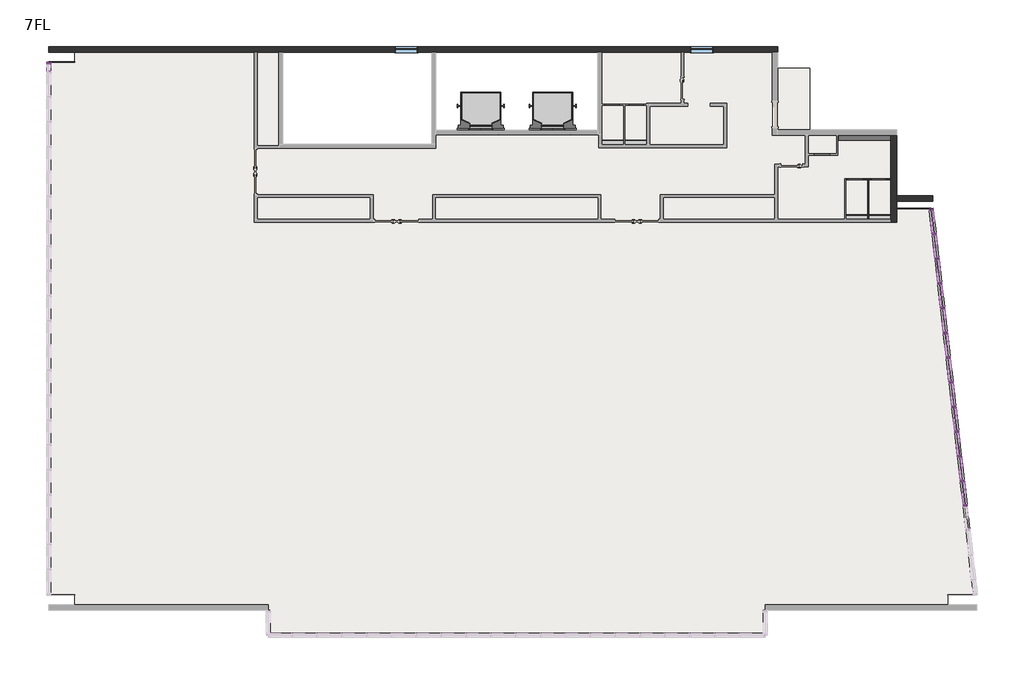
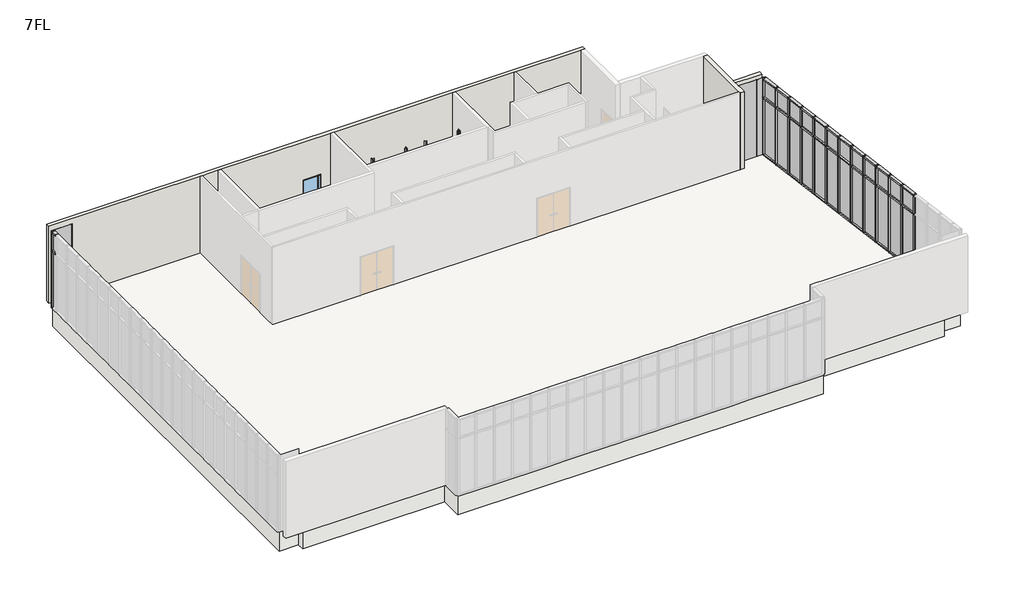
# One storey, part 4 of 4: 67 members, 28 plates, 8 proxies, 5 walls, 4 flow terminals, 2 slabs, 2 windows.
"""IFC4 building model written with IfcOpenShell, lengths in millimetres."""

from ifc_helpers import new_model, si_unit, frame, origin, place, context, project, spatial, polyline, outline, extrude, faceted_brep, transform, mapped, element, save
from components import specialty_equipment_d755c605, d150_h1500_9903e80e, w550_h2000_5054dc5e, w600_h2000_381ad4ff, flow_terminal_205c4ddb, member_70x150_cdd4dcf9, member_70x150_66cf63de, member_70x150_26475b18, member_70x150_ad4265bc, member_70x150_1b280ac3, member_70x150_76429c73, member_70x150_a15bb337, member_70x150_da24903b, plate_d1366ea1, plate_ab860a3c, plate_97be90fd, plate_28587fd3, plate_396bcf3c, w800_h1100_2b598eca

model = new_model("IFC4")

# Units and contexts
model_context = context("Model", 3, world=origin())
ifc_project = project(units=[si_unit("LENGTHUNIT", "METRE", prefix="MILLI")], contexts=[model_context])

# Site, building, storey
site = spatial("IfcSite", under=ifc_project)
building = spatial("IfcBuilding", under=site)
storey = spatial("IfcBuildingStorey", under=building, Name="7FL", Elevation=24600.0)

# Proxies
placement = place(None, origin())
specialty_equipment_shape = specialty_equipment_d755c605(model_context)
element("IfcBuildingElementProxy", 1, Name="エレベーター : 9人乗", ObjectType="エレベーター : 9人乗", at=placement, inside=storey, context=model_context, shape_type="MappedRepresentation", body=[
    mapped(specialty_equipment_shape, transform((-11220.9784025, 13649.6868987, 24600.0), x_axis=(1.0, 0.0, 0.0), y_axis=(0.0, 1.0, 0.0), z_axis=(0.0, 0.0, 1.0))),
])
element("IfcBuildingElementProxy", 2, Name="エレベーター : 9人乗", ObjectType="エレベーター : 9人乗", at=placement, inside=storey, context=model_context, shape_type="MappedRepresentation", body=[
    mapped(specialty_equipment_shape, transform((-13820.9784025, 13649.6868987, 24600.0), x_axis=(1.0, 0.0, 0.0), y_axis=(0.0, 1.0, 0.0), z_axis=(0.0, 0.0, 1.0))),
])
d150_h1500_shape = d150_h1500_9903e80e(model_context)
element("IfcBuildingElementProxy", 3, Name="r ライニング : D150 H1500", ObjectType="r ライニング : D150 H1500", at=placement, inside=storey, context=model_context, shape_type="MappedRepresentation", body=[
    mapped(d150_h1500_shape, transform((-736.1600971, 13521.6596024, 24600.0), x_axis=(1.0, 0.0, 0.0), y_axis=(0.0, 1.0, 0.0), z_axis=(0.0, 0.0, 1.0))),
])
w550_h2000_shape = w550_h2000_5054dc5e(model_context)
element("IfcBuildingElementProxy", 4, Name="r トイレブース扉 : W550 H2000", ObjectType="r トイレブース扉 : W550 H2000", at=placement, inside=storey, context=model_context, shape_type="MappedRepresentation", body=[
    mapped(w550_h2000_shape, transform((-8823.4784025, 14649.6868987, 24600.0), x_axis=(-1.0, 0.0, 0.0), y_axis=(0.0, -1.0, 0.0), z_axis=(0.0, 0.0, 1.0))),
])
element("IfcBuildingElementProxy", 5, Name="r トイレブース扉 : W550 H2000", ObjectType="r トイレブース扉 : W550 H2000", at=placement, inside=storey, context=model_context, shape_type="MappedRepresentation", body=[
    mapped(w550_h2000_shape, transform((-7940.9784025, 14649.6868987, 24600.0), x_axis=(-1.0, 0.0, 0.0), y_axis=(0.0, -1.0, 0.0), z_axis=(0.0, 0.0, 1.0))),
])
element("IfcBuildingElementProxy", 6, Name="r トイレブース扉 : W550 H2000", ObjectType="r トイレブース扉 : W550 H2000", at=placement, inside=storey, context=model_context, shape_type="MappedRepresentation", body=[
    mapped(w550_h2000_shape, transform((-5.9784025, 11949.6868987, 24600.0), x_axis=(-1.0, 0.0, 0.0), y_axis=(0.0, -1.0, 0.0), z_axis=(0.0, 0.0, 1.0))),
])
element("IfcBuildingElementProxy", 7, Name="r トイレブース扉 : W550 H2000", ObjectType="r トイレブース扉 : W550 H2000", at=placement, inside=storey, context=model_context, shape_type="MappedRepresentation", body=[
    mapped(w550_h2000_shape, transform((834.0215975, 11949.6868987, 24600.0), x_axis=(-1.0, 0.0, 0.0), y_axis=(0.0, -1.0, 0.0), z_axis=(0.0, 0.0, 1.0))),
])
w600_h2000_shape = w600_h2000_381ad4ff(model_context)
element("IfcBuildingElementProxy", 8, Name="r トイレブース扉 : W600 H2000", ObjectType="r トイレブース扉 : W600 H2000", at=placement, inside=storey, context=model_context, shape_type="MappedRepresentation", body=[
    mapped(w600_h2000_shape, transform((-1220.9784025, 12849.6868987, 24600.0), x_axis=(-1.0, 0.0, 0.0), y_axis=(0.0, -1.0, 0.0), z_axis=(0.0, 0.0, 1.0))),
])

# Flow terminals
flow_terminal_shape = flow_terminal_205c4ddb(model_context)
element("IfcFlowTerminal", 9, ObjectType="洋式便器 - ライニング付 - 2D : タイプ 1", at=placement, inside=storey, context=model_context, shape_type="MappedRepresentation", body=[
    mapped(flow_terminal_shape, transform((-9045.9784025, 13149.6868987, 24600.0), x_axis=(1.0, 0.0, 0.0), y_axis=(0.0, 1.0, 0.0), z_axis=(0.0, 0.0, 1.0))),
])
element("IfcFlowTerminal", 10, ObjectType="洋式便器 - ライニング付 - 2D : タイプ 1", at=placement, inside=storey, context=model_context, shape_type="MappedRepresentation", body=[
    mapped(flow_terminal_shape, transform((-8205.9784025, 13149.6868987, 24600.0), x_axis=(1.0, 0.0, 0.0), y_axis=(0.0, 1.0, 0.0), z_axis=(0.0, 0.0, 1.0))),
])
element("IfcFlowTerminal", 11, ObjectType="洋式便器 - ライニング付 - 2D : タイプ 1", at=placement, inside=storey, context=model_context, shape_type="MappedRepresentation", body=[
    mapped(flow_terminal_shape, transform((-210.9784025, 10449.6868987, 24600.0), x_axis=(1.0, 0.0, 0.0), y_axis=(0.0, 1.0, 0.0), z_axis=(0.0, 0.0, 1.0))),
])
element("IfcFlowTerminal", 12, ObjectType="洋式便器 - ライニング付 - 2D : タイプ 1", at=placement, inside=storey, context=model_context, shape_type="MappedRepresentation", body=[
    mapped(flow_terminal_shape, transform((629.0215975, 10449.6868987, 24600.0), x_axis=(1.0, 0.0, 0.0), y_axis=(0.0, 1.0, 0.0), z_axis=(0.0, 0.0, 1.0))),
])

# Members
member_70x150_shape = member_70x150_cdd4dcf9(model_context)
element("IfcMember", 13, ObjectType="長方形のマリオン : 70x150", at=placement, inside=storey, context=model_context, shape_type="MappedRepresentation", body=[
    mapped(member_70x150_shape, transform((3840.8083387, 134.7603905, 24600.0), x_axis=(0.11354659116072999, -0.9935326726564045, 0.0), y_axis=(-0.9935326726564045, -0.11354659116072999, 0.0), z_axis=(0.0, 0.0, -1.0))),
])
element("IfcMember", 14, ObjectType="長方形のマリオン : 70x150", at=placement, inside=storey, context=model_context, shape_type="MappedRepresentation", body=[
    mapped(member_70x150_shape, transform((3738.6164066, 1028.9397959, 24600.0), x_axis=(0.11354659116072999, -0.9935326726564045, 0.0), y_axis=(-0.9935326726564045, -0.11354659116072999, 0.0), z_axis=(0.0, 0.0, -1.0))),
])
element("IfcMember", 15, ObjectType="長方形のマリオン : 70x150", at=placement, inside=storey, context=model_context, shape_type="MappedRepresentation", body=[
    mapped(member_70x150_shape, transform((3636.4244746, 1923.1192013, 24600.0), x_axis=(0.11354659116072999, -0.9935326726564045, 0.0), y_axis=(-0.9935326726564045, -0.11354659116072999, 0.0), z_axis=(0.0, 0.0, -1.0))),
])
element("IfcMember", 16, ObjectType="長方形のマリオン : 70x150", at=placement, inside=storey, context=model_context, shape_type="MappedRepresentation", body=[
    mapped(member_70x150_shape, transform((3534.2325425, 2817.2986066, 24600.0), x_axis=(0.11354659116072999, -0.9935326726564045, 0.0), y_axis=(-0.9935326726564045, -0.11354659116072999, 0.0), z_axis=(0.0, 0.0, -1.0))),
])
element("IfcMember", 17, ObjectType="長方形のマリオン : 70x150", at=placement, inside=storey, context=model_context, shape_type="MappedRepresentation", body=[
    mapped(member_70x150_shape, transform((3432.0406105, 3711.478012, 24600.0), x_axis=(0.11354659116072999, -0.9935326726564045, 0.0), y_axis=(-0.9935326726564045, -0.11354659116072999, 0.0), z_axis=(0.0, 0.0, -1.0))),
])
element("IfcMember", 18, ObjectType="長方形のマリオン : 70x150", at=placement, inside=storey, context=model_context, shape_type="MappedRepresentation", body=[
    mapped(member_70x150_shape, transform((3329.8486784, 4605.6574174, 24600.0), x_axis=(0.11354659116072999, -0.9935326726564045, 0.0), y_axis=(-0.9935326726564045, -0.11354659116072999, 0.0), z_axis=(0.0, 0.0, -1.0))),
])
element("IfcMember", 19, ObjectType="長方形のマリオン : 70x150", at=placement, inside=storey, context=model_context, shape_type="MappedRepresentation", body=[
    mapped(member_70x150_shape, transform((3227.6567464, 5499.8368228, 24600.0), x_axis=(0.11354659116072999, -0.9935326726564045, 0.0), y_axis=(-0.9935326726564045, -0.11354659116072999, 0.0), z_axis=(0.0, 0.0, -1.0))),
])
element("IfcMember", 20, ObjectType="長方形のマリオン : 70x150", at=placement, inside=storey, context=model_context, shape_type="MappedRepresentation", body=[
    mapped(member_70x150_shape, transform((3125.4648143, 6394.0162282, 24600.0), x_axis=(0.11354659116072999, -0.9935326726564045, 0.0), y_axis=(-0.9935326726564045, -0.11354659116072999, 0.0), z_axis=(0.0, 0.0, -1.0))),
])
element("IfcMember", 21, ObjectType="長方形のマリオン : 70x150", at=placement, inside=storey, context=model_context, shape_type="MappedRepresentation", body=[
    mapped(member_70x150_shape, transform((3023.2728823, 7288.1956336, 24600.0), x_axis=(0.11354659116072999, -0.9935326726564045, 0.0), y_axis=(-0.9935326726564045, -0.11354659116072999, 0.0), z_axis=(0.0, 0.0, -1.0))),
])
element("IfcMember", 22, ObjectType="長方形のマリオン : 70x150", at=placement, inside=storey, context=model_context, shape_type="MappedRepresentation", body=[
    mapped(member_70x150_shape, transform((2921.0809503, 8182.375039, 24600.0), x_axis=(0.11354659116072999, -0.9935326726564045, 0.0), y_axis=(-0.9935326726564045, -0.11354659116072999, 0.0), z_axis=(0.0, 0.0, -1.0))),
])
element("IfcMember", 23, ObjectType="長方形のマリオン : 70x150", at=placement, inside=storey, context=model_context, shape_type="MappedRepresentation", body=[
    mapped(member_70x150_shape, transform((2818.8890182, 9076.5544444, 24600.0), x_axis=(0.11354659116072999, -0.9935326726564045, 0.0), y_axis=(-0.9935326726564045, -0.11354659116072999, 0.0), z_axis=(0.0, 0.0, -1.0))),
])
element("IfcMember", 24, ObjectType="長方形のマリオン : 70x150", at=placement, inside=storey, context=model_context, shape_type="MappedRepresentation", body=[
    mapped(member_70x150_shape, transform((2716.6970862, 9970.7338498, 24600.0), x_axis=(0.11354659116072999, -0.9935326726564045, 0.0), y_axis=(-0.9935326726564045, -0.11354659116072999, 0.0), z_axis=(0.0, 0.0, -1.0))),
])
member_70x150_2_shape = member_70x150_66cf63de(model_context)
element("IfcMember", 25, ObjectType="長方形のマリオン : 70x150", at=placement, inside=storey, context=model_context, shape_type="MappedRepresentation", body=[
    mapped(member_70x150_2_shape, transform((2618.4792848, 10830.1396116, 24600.0), x_axis=(0.0, 0.0, -1.0), y_axis=(-0.9935326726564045, -0.11354659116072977, 0.0), z_axis=(-0.11354659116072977, 0.9935326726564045, 0.0))),
])
element("IfcMember", 26, ObjectType="長方形のマリオン : 70x150", at=placement, inside=storey, context=model_context, shape_type="MappedRepresentation", body=[
    mapped(member_70x150_2_shape, transform((3844.7824693, 99.9867469, 24600.0), x_axis=(0.0, 0.0, -1.0), y_axis=(-0.9935326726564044, -0.11354659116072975, 0.0), z_axis=(-0.11354659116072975, 0.9935326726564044, 0.0))),
])
element("IfcMember", 27, ObjectType="長方形のマリオン : 70x150", at=placement, inside=storey, context=model_context, shape_type="MappedRepresentation", body=[
    mapped(member_70x150_2_shape, transform((3742.5905373, 994.1661523, 24600.0), x_axis=(0.0, 0.0, -1.0), y_axis=(-0.9935326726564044, -0.1135465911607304, 0.0), z_axis=(-0.11354659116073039, 0.9935326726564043, 0.0))),
])
element("IfcMember", 28, ObjectType="長方形のマリオン : 70x150", at=placement, inside=storey, context=model_context, shape_type="MappedRepresentation", body=[
    mapped(member_70x150_2_shape, transform((3640.3986053, 1888.3455577, 24600.0), x_axis=(0.0, 0.0, -1.0), y_axis=(-0.9935326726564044, -0.1135465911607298, 0.0), z_axis=(-0.1135465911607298, 0.9935326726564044, 0.0))),
])
element("IfcMember", 29, ObjectType="長方形のマリオン : 70x150", at=placement, inside=storey, context=model_context, shape_type="MappedRepresentation", body=[
    mapped(member_70x150_2_shape, transform((3538.2066732, 2782.5249631, 24600.0), x_axis=(0.0, 0.0, -1.0), y_axis=(-0.9935326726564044, -0.1135465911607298, 0.0), z_axis=(-0.1135465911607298, 0.9935326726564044, 0.0))),
])
element("IfcMember", 30, ObjectType="長方形のマリオン : 70x150", at=placement, inside=storey, context=model_context, shape_type="MappedRepresentation", body=[
    mapped(member_70x150_2_shape, transform((3436.0147412, 3676.7043685, 24600.0), x_axis=(0.0, 0.0, -1.0), y_axis=(-0.9935326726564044, -0.11354659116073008, 0.0), z_axis=(-0.11354659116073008, 0.9935326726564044, 0.0))),
])
element("IfcMember", 31, ObjectType="長方形のマリオン : 70x150", at=placement, inside=storey, context=model_context, shape_type="MappedRepresentation", body=[
    mapped(member_70x150_2_shape, transform((3333.8228091, 4570.8837739, 24600.0), x_axis=(0.0, 0.0, -1.0), y_axis=(-0.9935326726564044, -0.11354659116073, 0.0), z_axis=(-0.11354659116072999, 0.9935326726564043, 0.0))),
])
element("IfcMember", 32, ObjectType="長方形のマリオン : 70x150", at=placement, inside=storey, context=model_context, shape_type="MappedRepresentation", body=[
    mapped(member_70x150_2_shape, transform((3231.6308771, 5465.0631793, 24600.0), x_axis=(0.0, 0.0, -1.0), y_axis=(-0.9935326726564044, -0.11354659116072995, 0.0), z_axis=(-0.11354659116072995, 0.9935326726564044, 0.0))),
])
element("IfcMember", 33, ObjectType="長方形のマリオン : 70x150", at=placement, inside=storey, context=model_context, shape_type="MappedRepresentation", body=[
    mapped(member_70x150_2_shape, transform((3129.438945, 6359.2425847, 24600.0), x_axis=(0.0, 0.0, -1.0), y_axis=(-0.9935326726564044, -0.11354659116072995, 0.0), z_axis=(-0.11354659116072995, 0.9935326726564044, 0.0))),
])
element("IfcMember", 34, ObjectType="長方形のマリオン : 70x150", at=placement, inside=storey, context=model_context, shape_type="MappedRepresentation", body=[
    mapped(member_70x150_2_shape, transform((3027.247013, 7253.4219901, 24600.0), x_axis=(0.0, 0.0, -1.0), y_axis=(-0.9935326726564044, -0.11354659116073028, 0.0), z_axis=(-0.11354659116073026, 0.9935326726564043, 0.0))),
])
element("IfcMember", 35, ObjectType="長方形のマリオン : 70x150", at=placement, inside=storey, context=model_context, shape_type="MappedRepresentation", body=[
    mapped(member_70x150_2_shape, transform((2925.0550809, 8147.6013954, 24600.0), x_axis=(0.0, 0.0, -1.0), y_axis=(-0.9935326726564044, -0.1135465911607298, 0.0), z_axis=(-0.1135465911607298, 0.9935326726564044, 0.0))),
])
element("IfcMember", 36, ObjectType="長方形のマリオン : 70x150", at=placement, inside=storey, context=model_context, shape_type="MappedRepresentation", body=[
    mapped(member_70x150_2_shape, transform((2822.8631489, 9041.7808008, 24600.0), x_axis=(0.0, 0.0, -1.0), y_axis=(-0.9935326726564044, -0.11354659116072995, 0.0), z_axis=(-0.11354659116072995, 0.9935326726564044, 0.0))),
])
element("IfcMember", 37, ObjectType="長方形のマリオン : 70x150", at=placement, inside=storey, context=model_context, shape_type="MappedRepresentation", body=[
    mapped(member_70x150_2_shape, transform((2720.6712169, 9935.9602062, 24600.0), x_axis=(0.0, 0.0, -1.0), y_axis=(-0.9935326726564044, -0.11354659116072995, 0.0), z_axis=(-0.11354659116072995, 0.9935326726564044, 0.0))),
])
element("IfcMember", 38, ObjectType="長方形のマリオン : 70x150", at=placement, inside=storey, context=model_context, shape_type="MappedRepresentation", body=[
    mapped(member_70x150_2_shape, transform((3836.834208, 169.534034, 28600.0), x_axis=(0.0, 0.0, 1.0), y_axis=(-0.9935326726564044, -0.11354659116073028, 0.0), z_axis=(0.11354659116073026, -0.9935326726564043, 0.0))),
])
element("IfcMember", 39, ObjectType="長方形のマリオン : 70x150", at=placement, inside=storey, context=model_context, shape_type="MappedRepresentation", body=[
    mapped(member_70x150_2_shape, transform((3734.6422759, 1063.7134394, 28600.0), x_axis=(0.0, 0.0, 1.0), y_axis=(-0.9935326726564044, -0.11354659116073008, 0.0), z_axis=(0.11354659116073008, -0.9935326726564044, 0.0))),
])
element("IfcMember", 40, ObjectType="長方形のマリオン : 70x150", at=placement, inside=storey, context=model_context, shape_type="MappedRepresentation", body=[
    mapped(member_70x150_2_shape, transform((3632.4503439, 1957.8928448, 28600.0), x_axis=(0.0, 0.0, 1.0), y_axis=(-0.9935326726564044, -0.11354659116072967, 0.0), z_axis=(0.11354659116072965, -0.9935326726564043, 0.0))),
])
element("IfcMember", 41, ObjectType="長方形のマリオン : 70x150", at=placement, inside=storey, context=model_context, shape_type="MappedRepresentation", body=[
    mapped(member_70x150_2_shape, transform((3530.2584118, 2852.0722502, 28600.0), x_axis=(0.0, 0.0, 1.0), y_axis=(-0.9935326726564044, -0.11354659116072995, 0.0), z_axis=(0.11354659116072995, -0.9935326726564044, 0.0))),
])
element("IfcMember", 42, ObjectType="長方形のマリオン : 70x150", at=placement, inside=storey, context=model_context, shape_type="MappedRepresentation", body=[
    mapped(member_70x150_2_shape, transform((3428.0664798, 3746.2516556, 28600.0), x_axis=(0.0, 0.0, 1.0), y_axis=(-0.9935326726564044, -0.11354659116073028, 0.0), z_axis=(0.11354659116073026, -0.9935326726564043, 0.0))),
])
element("IfcMember", 43, ObjectType="長方形のマリオン : 70x150", at=placement, inside=storey, context=model_context, shape_type="MappedRepresentation", body=[
    mapped(member_70x150_2_shape, transform((3325.8745477, 4640.431061, 28600.0), x_axis=(0.0, 0.0, 1.0), y_axis=(-0.9935326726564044, -0.11354659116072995, 0.0), z_axis=(0.11354659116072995, -0.9935326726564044, 0.0))),
])
element("IfcMember", 44, ObjectType="長方形のマリオン : 70x150", at=placement, inside=storey, context=model_context, shape_type="MappedRepresentation", body=[
    mapped(member_70x150_2_shape, transform((3223.6826157, 5534.6104664, 28600.0), x_axis=(0.0, 0.0, 1.0), y_axis=(-0.9935326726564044, -0.11354659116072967, 0.0), z_axis=(0.11354659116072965, -0.9935326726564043, 0.0))),
])
element("IfcMember", 45, ObjectType="長方形のマリオン : 70x150", at=placement, inside=storey, context=model_context, shape_type="MappedRepresentation", body=[
    mapped(member_70x150_2_shape, transform((3121.4906836, 6428.7898717, 28600.0), x_axis=(0.0, 0.0, 1.0), y_axis=(-0.9935326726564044, -0.1135465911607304, 0.0), z_axis=(0.11354659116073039, -0.9935326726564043, 0.0))),
])
element("IfcMember", 46, ObjectType="長方形のマリオン : 70x150", at=placement, inside=storey, context=model_context, shape_type="MappedRepresentation", body=[
    mapped(member_70x150_2_shape, transform((3019.2987516, 7322.9692771, 28600.0), x_axis=(0.0, 0.0, 1.0), y_axis=(-0.9935326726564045, -0.11354659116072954, 0.0), z_axis=(0.11354659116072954, -0.9935326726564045, 0.0))),
])
element("IfcMember", 47, ObjectType="長方形のマリオン : 70x150", at=placement, inside=storey, context=model_context, shape_type="MappedRepresentation", body=[
    mapped(member_70x150_2_shape, transform((2917.1068196, 8217.1486825, 28600.0), x_axis=(0.0, 0.0, 1.0), y_axis=(-0.9935326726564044, -0.11354659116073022, 0.0), z_axis=(0.11354659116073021, -0.9935326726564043, 0.0))),
])
element("IfcMember", 48, ObjectType="長方形のマリオン : 70x150", at=placement, inside=storey, context=model_context, shape_type="MappedRepresentation", body=[
    mapped(member_70x150_2_shape, transform((2814.9148875, 9111.3280879, 28600.0), x_axis=(0.0, 0.0, 1.0), y_axis=(-0.9935326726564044, -0.11354659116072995, 0.0), z_axis=(0.11354659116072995, -0.9935326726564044, 0.0))),
])
element("IfcMember", 49, ObjectType="長方形のマリオン : 70x150", at=placement, inside=storey, context=model_context, shape_type="MappedRepresentation", body=[
    mapped(member_70x150_2_shape, transform((2712.7229555, 10005.5074933, 28600.0), x_axis=(0.0, 0.0, 1.0), y_axis=(-0.9935326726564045, -0.11354659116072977, 0.0), z_axis=(0.11354659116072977, -0.9935326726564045, 0.0))),
])
member_70x150_3_shape = member_70x150_26475b18(model_context)
element("IfcMember", 50, ObjectType="長方形のマリオン : 70x150", at=placement, inside=storey, context=model_context, shape_type="MappedRepresentation", body=[
    mapped(member_70x150_3_shape, transform((3534.2325425, 2817.2986066, 27600.0), x_axis=(0.11354659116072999, -0.9935326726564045, 0.0), y_axis=(-0.9935326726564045, -0.11354659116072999, 0.0), z_axis=(0.0, 0.0, -1.0))),
])
element("IfcMember", 51, ObjectType="長方形のマリオン : 70x150", at=placement, inside=storey, context=model_context, shape_type="MappedRepresentation", body=[
    mapped(member_70x150_3_shape, transform((3636.4244746, 1923.1192013, 27600.0), x_axis=(0.11354659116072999, -0.9935326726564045, 0.0), y_axis=(-0.9935326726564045, -0.11354659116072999, 0.0), z_axis=(0.0, 0.0, -1.0))),
])
element("IfcMember", 52, ObjectType="長方形のマリオン : 70x150", at=placement, inside=storey, context=model_context, shape_type="MappedRepresentation", body=[
    mapped(member_70x150_3_shape, transform((3738.6164066, 1028.9397959, 27600.0), x_axis=(0.11354659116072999, -0.9935326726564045, 0.0), y_axis=(-0.9935326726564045, -0.11354659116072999, 0.0), z_axis=(0.0, 0.0, -1.0))),
])
element("IfcMember", 53, ObjectType="長方形のマリオン : 70x150", at=placement, inside=storey, context=model_context, shape_type="MappedRepresentation", body=[
    mapped(member_70x150_3_shape, transform((3840.8083387, 134.7603905, 27600.0), x_axis=(0.11354659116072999, -0.9935326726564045, 0.0), y_axis=(-0.9935326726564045, -0.11354659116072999, 0.0), z_axis=(0.0, 0.0, -1.0))),
])
element("IfcMember", 54, ObjectType="長方形のマリオン : 70x150", at=placement, inside=storey, context=model_context, shape_type="MappedRepresentation", body=[
    mapped(member_70x150_3_shape, transform((3432.0406105, 3711.478012, 27600.0), x_axis=(0.11354659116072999, -0.9935326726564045, 0.0), y_axis=(-0.9935326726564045, -0.11354659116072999, 0.0), z_axis=(0.0, 0.0, -1.0))),
])
element("IfcMember", 55, ObjectType="長方形のマリオン : 70x150", at=placement, inside=storey, context=model_context, shape_type="MappedRepresentation", body=[
    mapped(member_70x150_3_shape, transform((3329.8486784, 4605.6574174, 27600.0), x_axis=(0.11354659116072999, -0.9935326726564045, 0.0), y_axis=(-0.9935326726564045, -0.11354659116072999, 0.0), z_axis=(0.0, 0.0, -1.0))),
])
element("IfcMember", 56, ObjectType="長方形のマリオン : 70x150", at=placement, inside=storey, context=model_context, shape_type="MappedRepresentation", body=[
    mapped(member_70x150_3_shape, transform((3227.6567464, 5499.8368228, 27600.0), x_axis=(0.11354659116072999, -0.9935326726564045, 0.0), y_axis=(-0.9935326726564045, -0.11354659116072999, 0.0), z_axis=(0.0, 0.0, -1.0))),
])
element("IfcMember", 57, ObjectType="長方形のマリオン : 70x150", at=placement, inside=storey, context=model_context, shape_type="MappedRepresentation", body=[
    mapped(member_70x150_3_shape, transform((3125.4648143, 6394.0162282, 27600.0), x_axis=(0.11354659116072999, -0.9935326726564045, 0.0), y_axis=(-0.9935326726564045, -0.11354659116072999, 0.0), z_axis=(0.0, 0.0, -1.0))),
])
element("IfcMember", 58, ObjectType="長方形のマリオン : 70x150", at=placement, inside=storey, context=model_context, shape_type="MappedRepresentation", body=[
    mapped(member_70x150_3_shape, transform((3023.2728823, 7288.1956336, 27600.0), x_axis=(0.11354659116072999, -0.9935326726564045, 0.0), y_axis=(-0.9935326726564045, -0.11354659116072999, 0.0), z_axis=(0.0, 0.0, -1.0))),
])
element("IfcMember", 59, ObjectType="長方形のマリオン : 70x150", at=placement, inside=storey, context=model_context, shape_type="MappedRepresentation", body=[
    mapped(member_70x150_3_shape, transform((2921.0809503, 8182.375039, 27600.0), x_axis=(0.11354659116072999, -0.9935326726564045, 0.0), y_axis=(-0.9935326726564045, -0.11354659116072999, 0.0), z_axis=(0.0, 0.0, -1.0))),
])
element("IfcMember", 60, ObjectType="長方形のマリオン : 70x150", at=placement, inside=storey, context=model_context, shape_type="MappedRepresentation", body=[
    mapped(member_70x150_3_shape, transform((2818.8890182, 9076.5544444, 27600.0), x_axis=(0.11354659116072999, -0.9935326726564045, 0.0), y_axis=(-0.9935326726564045, -0.11354659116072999, 0.0), z_axis=(0.0, 0.0, -1.0))),
])
element("IfcMember", 61, ObjectType="長方形のマリオン : 70x150", at=placement, inside=storey, context=model_context, shape_type="MappedRepresentation", body=[
    mapped(member_70x150_3_shape, transform((2716.6970862, 9970.7338498, 27600.0), x_axis=(0.11354659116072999, -0.9935326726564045, 0.0), y_axis=(-0.9935326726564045, -0.11354659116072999, 0.0), z_axis=(0.0, 0.0, -1.0))),
])
member_70x150_4_shape = member_70x150_ad4265bc(model_context)
element("IfcMember", 62, ObjectType="長方形のマリオン : 70x150", at=placement, inside=storey, context=model_context, shape_type="MappedRepresentation", body=[
    mapped(member_70x150_4_shape, transform((3223.6826157, 5534.6104664, 27600.0), x_axis=(0.0, 0.0, 1.0), y_axis=(-0.9935326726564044, -0.11354659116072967, 0.0), z_axis=(0.11354659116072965, -0.9935326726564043, 0.0))),
])
element("IfcMember", 63, ObjectType="長方形のマリオン : 70x150", at=placement, inside=storey, context=model_context, shape_type="MappedRepresentation", body=[
    mapped(member_70x150_4_shape, transform((3121.4906836, 6428.7898717, 27600.0), x_axis=(0.0, 0.0, 1.0), y_axis=(-0.9935326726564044, -0.1135465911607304, 0.0), z_axis=(0.11354659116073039, -0.9935326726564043, 0.0))),
])
element("IfcMember", 64, ObjectType="長方形のマリオン : 70x150", at=placement, inside=storey, context=model_context, shape_type="MappedRepresentation", body=[
    mapped(member_70x150_4_shape, transform((3019.2987516, 7322.9692771, 27600.0), x_axis=(0.0, 0.0, 1.0), y_axis=(-0.9935326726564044, -0.11354659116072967, 0.0), z_axis=(0.11354659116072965, -0.9935326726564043, 0.0))),
])
element("IfcMember", 65, ObjectType="長方形のマリオン : 70x150", at=placement, inside=storey, context=model_context, shape_type="MappedRepresentation", body=[
    mapped(member_70x150_4_shape, transform((2917.1068196, 8217.1486825, 27600.0), x_axis=(0.0, 0.0, 1.0), y_axis=(-0.9935326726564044, -0.11354659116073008, 0.0), z_axis=(0.11354659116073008, -0.9935326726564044, 0.0))),
])
element("IfcMember", 66, ObjectType="長方形のマリオン : 70x150", at=placement, inside=storey, context=model_context, shape_type="MappedRepresentation", body=[
    mapped(member_70x150_4_shape, transform((2814.9148875, 9111.3280879, 27600.0), x_axis=(0.0, 0.0, 1.0), y_axis=(-0.9935326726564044, -0.11354659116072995, 0.0), z_axis=(0.11354659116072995, -0.9935326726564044, 0.0))),
])
element("IfcMember", 67, ObjectType="長方形のマリオン : 70x150", at=placement, inside=storey, context=model_context, shape_type="MappedRepresentation", body=[
    mapped(member_70x150_4_shape, transform((2712.7229555, 10005.5074933, 27600.0), x_axis=(0.0, 0.0, 1.0), y_axis=(-0.9935326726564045, -0.11354659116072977, 0.0), z_axis=(0.11354659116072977, -0.9935326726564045, 0.0))),
])
element("IfcMember", 68, ObjectType="長方形のマリオン : 70x150", at=placement, inside=storey, context=model_context, shape_type="MappedRepresentation", body=[
    mapped(member_70x150_4_shape, transform((3836.834208, 169.534034, 27600.0), x_axis=(0.0, 0.0, 1.0), y_axis=(-0.9935326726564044, -0.11354659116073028, 0.0), z_axis=(0.11354659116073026, -0.9935326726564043, 0.0))),
])
element("IfcMember", 69, ObjectType="長方形のマリオン : 70x150", at=placement, inside=storey, context=model_context, shape_type="MappedRepresentation", body=[
    mapped(member_70x150_4_shape, transform((3734.6422759, 1063.7134394, 27600.0), x_axis=(0.0, 0.0, 1.0), y_axis=(-0.9935326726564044, -0.11354659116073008, 0.0), z_axis=(0.11354659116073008, -0.9935326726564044, 0.0))),
])
element("IfcMember", 70, ObjectType="長方形のマリオン : 70x150", at=placement, inside=storey, context=model_context, shape_type="MappedRepresentation", body=[
    mapped(member_70x150_4_shape, transform((3632.4503439, 1957.8928448, 27600.0), x_axis=(0.0, 0.0, 1.0), y_axis=(-0.9935326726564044, -0.11354659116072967, 0.0), z_axis=(0.11354659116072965, -0.9935326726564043, 0.0))),
])
element("IfcMember", 71, ObjectType="長方形のマリオン : 70x150", at=placement, inside=storey, context=model_context, shape_type="MappedRepresentation", body=[
    mapped(member_70x150_4_shape, transform((3530.2584118, 2852.0722502, 27600.0), x_axis=(0.0, 0.0, 1.0), y_axis=(-0.9935326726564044, -0.11354659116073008, 0.0), z_axis=(0.11354659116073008, -0.9935326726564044, 0.0))),
])
element("IfcMember", 72, ObjectType="長方形のマリオン : 70x150", at=placement, inside=storey, context=model_context, shape_type="MappedRepresentation", body=[
    mapped(member_70x150_4_shape, transform((3428.0664798, 3746.2516556, 27600.0), x_axis=(0.0, 0.0, 1.0), y_axis=(-0.9935326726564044, -0.11354659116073, 0.0), z_axis=(0.11354659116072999, -0.9935326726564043, 0.0))),
])
element("IfcMember", 73, ObjectType="長方形のマリオン : 70x150", at=placement, inside=storey, context=model_context, shape_type="MappedRepresentation", body=[
    mapped(member_70x150_4_shape, transform((3325.8745477, 4640.431061, 27600.0), x_axis=(0.0, 0.0, 1.0), y_axis=(-0.9935326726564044, -0.11354659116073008, 0.0), z_axis=(0.11354659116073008, -0.9935326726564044, 0.0))),
])
member_70x150_5_shape = member_70x150_1b280ac3(model_context)
element("IfcMember", 74, ObjectType="長方形のマリオン : 70x150", at=placement, inside=storey, context=model_context, shape_type="MappedRepresentation", body=[
    mapped(member_70x150_5_shape, transform((-29345.9784025, 16199.6868987, 24600.0), x_axis=(0.0, 1.0, 0.0), y_axis=(1.0, 0.0, 0.0), z_axis=(0.0, 0.0, -1.0))),
])
member_70x150_6_shape = member_70x150_76429c73(model_context)
element("IfcMember", 75, ObjectType="長方形のマリオン : 70x150", at=placement, inside=storey, context=model_context, shape_type="MappedRepresentation", body=[
    mapped(member_70x150_6_shape, transform((2610.5310234, 10899.6868987, 28600.0), x_axis=(-0.11354659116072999, 0.9935326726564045, 0.0), y_axis=(-0.9935326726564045, -0.11354659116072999, 0.0), z_axis=(0.0, 0.0, 1.0))),
])
element("IfcMember", 76, ObjectType="長方形のマリオン : 70x150", at=placement, inside=storey, context=model_context, shape_type="MappedRepresentation", body=[
    mapped(member_70x150_6_shape, transform((-29345.9784025, 16199.6868987, 27600.0), x_axis=(0.0, 1.0, 0.0), y_axis=(1.0, 0.0, 0.0), z_axis=(0.0, 0.0, -1.0))),
])
element("IfcMember", 77, ObjectType="長方形のマリオン : 70x150", at=placement, inside=storey, context=model_context, shape_type="MappedRepresentation", body=[
    mapped(member_70x150_5_shape, transform((2610.5310234, 10899.6868987, 27600.0), x_axis=(-0.11354659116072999, 0.9935326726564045, 0.0), y_axis=(-0.9935326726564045, -0.11354659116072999, 0.0), z_axis=(0.0, 0.0, 1.0))),
])
member_70x150_7_shape = member_70x150_a15bb337(model_context)
element("IfcMember", 78, ObjectType="長方形のマリオン : 70x150", at=placement, inside=storey, context=model_context, shape_type="MappedRepresentation", body=[
    mapped(member_70x150_7_shape, transform((-29345.9784025, 16129.6868987, 28600.0), x_axis=(0.0, 0.0, 1.0), y_axis=(1.0, 0.0, 0.0), z_axis=(0.0, 1.0, 0.0))),
])
member_70x150_8_shape = member_70x150_da24903b(model_context)
element("IfcMember", 79, ObjectType="長方形のマリオン : 70x150", at=placement, inside=storey, context=model_context, shape_type="MappedRepresentation", body=[
    mapped(member_70x150_8_shape, transform((-29345.9784025, 16129.6868987, 27600.0), x_axis=(0.0, 0.0, 1.0), y_axis=(1.0, 0.0, 0.0), z_axis=(0.0, 1.0, 0.0))),
])

# Plates
plate_shape = plate_d1366ea1(model_context)
element("IfcPlate", 80, ObjectType="システム パネル : 標準", at=placement, inside=storey, context=model_context, shape_type="MappedRepresentation", body=[
    mapped(plate_shape, transform((1804.0215975, 10899.6868987, 24600.0), x_axis=(1.0, 0.0, 0.0), y_axis=(0.0, 1.0, 0.0), z_axis=(0.0, 0.0, 1.0))),
])
element("IfcPlate", 81, ObjectType="システム パネル : 標準", at=placement, inside=storey, context=model_context, shape_type="MappedRepresentation", body=[
    mapped(plate_shape, transform((-28895.9784025, 16199.6868987, 24600.0), x_axis=(1.0, 0.0, 0.0), y_axis=(0.0, 1.0, 0.0), z_axis=(0.0, 0.0, 1.0))),
])
plate_2_shape = plate_ab860a3c(model_context)
element("IfcPlate", 82, ObjectType="システム パネル : 標準", at=placement, inside=storey, context=model_context, shape_type="MappedRepresentation", body=[
    mapped(plate_2_shape, transform((-28420.9784025, 16199.6868987, 24600.0), x_axis=(1.0, 0.0, 0.0), y_axis=(0.0, 1.0, 0.0), z_axis=(0.0, 0.0, 1.0))),
])
plate_3_shape = plate_97be90fd(model_context)
element("IfcPlate", 83, ObjectType="システム パネル : 標準", at=placement, inside=storey, context=model_context, shape_type="MappedRepresentation", body=[
    mapped(plate_3_shape, transform((2432.2763105, 10899.6868987, 24600.0), x_axis=(1.0, 0.0, 0.0), y_axis=(0.0, 1.0, 0.0), z_axis=(0.0, 0.0, 1.0))),
])
plate_4_shape = plate_28587fd3(model_context)
element("IfcPlate", 84, ObjectType="システム パネル : 標準", at=placement, inside=storey, context=model_context, shape_type="MappedRepresentation", body=[
    mapped(plate_4_shape, transform((2665.6011201, 10417.8235525, 24670.0), x_axis=(0.11354659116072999, -0.9935326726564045, 0.0), y_axis=(0.9935326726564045, 0.11354659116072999, 0.0), z_axis=(0.0, 0.0, 1.0))),
])
element("IfcPlate", 85, ObjectType="システム パネル : 標準", at=placement, inside=storey, context=model_context, shape_type="MappedRepresentation", body=[
    mapped(plate_4_shape, transform((2767.7930522, 9523.6441471, 24670.0), x_axis=(0.11354659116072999, -0.9935326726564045, 0.0), y_axis=(0.9935326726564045, 0.11354659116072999, 0.0), z_axis=(0.0, 0.0, 1.0))),
])
element("IfcPlate", 86, ObjectType="システム パネル : 標準", at=placement, inside=storey, context=model_context, shape_type="MappedRepresentation", body=[
    mapped(plate_4_shape, transform((2869.9849842, 8629.4647417, 24670.0), x_axis=(0.11354659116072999, -0.9935326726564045, 0.0), y_axis=(0.9935326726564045, 0.11354659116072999, 0.0), z_axis=(0.0, 0.0, 1.0))),
])
element("IfcPlate", 87, ObjectType="システム パネル : 標準", at=placement, inside=storey, context=model_context, shape_type="MappedRepresentation", body=[
    mapped(plate_4_shape, transform((2972.1769163, 7735.2853363, 24670.0), x_axis=(0.11354659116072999, -0.9935326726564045, 0.0), y_axis=(0.9935326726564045, 0.11354659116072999, 0.0), z_axis=(0.0, 0.0, 1.0))),
])
element("IfcPlate", 88, ObjectType="システム パネル : 標準", at=placement, inside=storey, context=model_context, shape_type="MappedRepresentation", body=[
    mapped(plate_4_shape, transform((3074.3688483, 6841.1059309, 24670.0), x_axis=(0.11354659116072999, -0.9935326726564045, 0.0), y_axis=(0.9935326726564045, 0.11354659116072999, 0.0), z_axis=(0.0, 0.0, 1.0))),
])
element("IfcPlate", 89, ObjectType="システム パネル : 標準", at=placement, inside=storey, context=model_context, shape_type="MappedRepresentation", body=[
    mapped(plate_4_shape, transform((3176.5607804, 5946.9265255, 24670.0), x_axis=(0.11354659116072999, -0.9935326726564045, 0.0), y_axis=(0.9935326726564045, 0.11354659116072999, 0.0), z_axis=(0.0, 0.0, 1.0))),
])
element("IfcPlate", 90, ObjectType="システム パネル : 標準", at=placement, inside=storey, context=model_context, shape_type="MappedRepresentation", body=[
    mapped(plate_4_shape, transform((3278.7527124, 5052.7471201, 24670.0), x_axis=(0.11354659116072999, -0.9935326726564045, 0.0), y_axis=(0.9935326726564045, 0.11354659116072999, 0.0), z_axis=(0.0, 0.0, 1.0))),
])
element("IfcPlate", 91, ObjectType="システム パネル : 標準", at=placement, inside=storey, context=model_context, shape_type="MappedRepresentation", body=[
    mapped(plate_4_shape, transform((3380.9446445, 4158.5677147, 24670.0), x_axis=(0.11354659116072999, -0.9935326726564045, 0.0), y_axis=(0.9935326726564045, 0.11354659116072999, 0.0), z_axis=(0.0, 0.0, 1.0))),
])
element("IfcPlate", 92, ObjectType="システム パネル : 標準", at=placement, inside=storey, context=model_context, shape_type="MappedRepresentation", body=[
    mapped(plate_4_shape, transform((3483.1365765, 3264.3883093, 24670.0), x_axis=(0.11354659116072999, -0.9935326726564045, 0.0), y_axis=(0.9935326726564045, 0.11354659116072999, 0.0), z_axis=(0.0, 0.0, 1.0))),
])
element("IfcPlate", 93, ObjectType="システム パネル : 標準", at=placement, inside=storey, context=model_context, shape_type="MappedRepresentation", body=[
    mapped(plate_4_shape, transform((3585.3285085, 2370.2089039, 24670.0), x_axis=(0.11354659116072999, -0.9935326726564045, 0.0), y_axis=(0.9935326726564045, 0.11354659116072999, 0.0), z_axis=(0.0, 0.0, 1.0))),
])
element("IfcPlate", 94, ObjectType="システム パネル : 標準", at=placement, inside=storey, context=model_context, shape_type="MappedRepresentation", body=[
    mapped(plate_4_shape, transform((3687.5204406, 1476.0294986, 24670.0), x_axis=(0.11354659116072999, -0.9935326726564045, 0.0), y_axis=(0.9935326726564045, 0.11354659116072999, 0.0), z_axis=(0.0, 0.0, 1.0))),
])
element("IfcPlate", 95, ObjectType="システム パネル : 標準", at=placement, inside=storey, context=model_context, shape_type="MappedRepresentation", body=[
    mapped(plate_4_shape, transform((3789.7123726, 581.8500932, 24670.0), x_axis=(0.11354659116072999, -0.9935326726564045, 0.0), y_axis=(0.9935326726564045, 0.11354659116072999, 0.0), z_axis=(0.0, 0.0, 1.0))),
])
plate_5_shape = plate_396bcf3c(model_context)
element("IfcPlate", 96, ObjectType="システム パネル : 標準", at=placement, inside=storey, context=model_context, shape_type="MappedRepresentation", body=[
    mapped(plate_5_shape, transform((2665.6011201, 10417.8235525, 27635.0), x_axis=(0.11354659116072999, -0.9935326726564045, 0.0), y_axis=(0.9935326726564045, 0.11354659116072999, 0.0), z_axis=(0.0, 0.0, 1.0))),
])
element("IfcPlate", 97, ObjectType="システム パネル : 標準", at=placement, inside=storey, context=model_context, shape_type="MappedRepresentation", body=[
    mapped(plate_5_shape, transform((2767.7930522, 9523.6441471, 27635.0), x_axis=(0.11354659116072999, -0.9935326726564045, 0.0), y_axis=(0.9935326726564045, 0.11354659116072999, 0.0), z_axis=(0.0, 0.0, 1.0))),
])
element("IfcPlate", 98, ObjectType="システム パネル : 標準", at=placement, inside=storey, context=model_context, shape_type="MappedRepresentation", body=[
    mapped(plate_5_shape, transform((2869.9849842, 8629.4647417, 27635.0), x_axis=(0.11354659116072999, -0.9935326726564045, 0.0), y_axis=(0.9935326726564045, 0.11354659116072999, 0.0), z_axis=(0.0, 0.0, 1.0))),
])
element("IfcPlate", 99, ObjectType="システム パネル : 標準", at=placement, inside=storey, context=model_context, shape_type="MappedRepresentation", body=[
    mapped(plate_5_shape, transform((2972.1769163, 7735.2853363, 27635.0), x_axis=(0.11354659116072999, -0.9935326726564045, 0.0), y_axis=(0.9935326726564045, 0.11354659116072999, 0.0), z_axis=(0.0, 0.0, 1.0))),
])
element("IfcPlate", 100, ObjectType="システム パネル : 標準", at=placement, inside=storey, context=model_context, shape_type="MappedRepresentation", body=[
    mapped(plate_5_shape, transform((3074.3688483, 6841.1059309, 27635.0), x_axis=(0.11354659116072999, -0.9935326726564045, 0.0), y_axis=(0.9935326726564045, 0.11354659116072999, 0.0), z_axis=(0.0, 0.0, 1.0))),
])
element("IfcPlate", 101, ObjectType="システム パネル : 標準", at=placement, inside=storey, context=model_context, shape_type="MappedRepresentation", body=[
    mapped(plate_5_shape, transform((3176.5607804, 5946.9265255, 27635.0), x_axis=(0.11354659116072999, -0.9935326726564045, 0.0), y_axis=(0.9935326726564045, 0.11354659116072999, 0.0), z_axis=(0.0, 0.0, 1.0))),
])
element("IfcPlate", 102, ObjectType="システム パネル : 標準", at=placement, inside=storey, context=model_context, shape_type="MappedRepresentation", body=[
    mapped(plate_5_shape, transform((3278.7527124, 5052.7471201, 27635.0), x_axis=(0.11354659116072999, -0.9935326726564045, 0.0), y_axis=(0.9935326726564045, 0.11354659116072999, 0.0), z_axis=(0.0, 0.0, 1.0))),
])
element("IfcPlate", 103, ObjectType="システム パネル : 標準", at=placement, inside=storey, context=model_context, shape_type="MappedRepresentation", body=[
    mapped(plate_5_shape, transform((3380.9446445, 4158.5677147, 27635.0), x_axis=(0.11354659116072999, -0.9935326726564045, 0.0), y_axis=(0.9935326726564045, 0.11354659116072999, 0.0), z_axis=(0.0, 0.0, 1.0))),
])
element("IfcPlate", 104, ObjectType="システム パネル : 標準", at=placement, inside=storey, context=model_context, shape_type="MappedRepresentation", body=[
    mapped(plate_5_shape, transform((3483.1365765, 3264.3883093, 27635.0), x_axis=(0.11354659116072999, -0.9935326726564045, 0.0), y_axis=(0.9935326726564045, 0.11354659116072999, 0.0), z_axis=(0.0, 0.0, 1.0))),
])
element("IfcPlate", 105, ObjectType="システム パネル : 標準", at=placement, inside=storey, context=model_context, shape_type="MappedRepresentation", body=[
    mapped(plate_5_shape, transform((3585.3285085, 2370.2089039, 27635.0), x_axis=(0.11354659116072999, -0.9935326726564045, 0.0), y_axis=(0.9935326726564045, 0.11354659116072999, 0.0), z_axis=(0.0, 0.0, 1.0))),
])
element("IfcPlate", 106, ObjectType="システム パネル : 標準", at=placement, inside=storey, context=model_context, shape_type="MappedRepresentation", body=[
    mapped(plate_5_shape, transform((3687.5204406, 1476.0294986, 27635.0), x_axis=(0.11354659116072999, -0.9935326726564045, 0.0), y_axis=(0.9935326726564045, 0.11354659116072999, 0.0), z_axis=(0.0, 0.0, 1.0))),
])
element("IfcPlate", 107, ObjectType="システム パネル : 標準", at=placement, inside=storey, context=model_context, shape_type="MappedRepresentation", body=[
    mapped(plate_5_shape, transform((3789.7123726, 581.8500932, 27635.0), x_axis=(0.11354659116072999, -0.9935326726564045, 0.0), y_axis=(0.9935326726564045, 0.11354659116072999, 0.0), z_axis=(0.0, 0.0, 1.0))),
])

# Slabs
element("IfcSlab", 108, ObjectType="企画1000", at=placement, inside=storey, context=model_context, shape_type="SweptSolid", body=[
    extrude(outline(polyline([(-20870.9784025, 16549.6868987), (-20870.9784025, 13224.6868987), (-15470.9784025, 13224.6868987), (-15470.9784025, 13724.6868987), (-9470.9784025, 13724.6868987), (-9470.9784025, 16549.6868987), (-3145.9784025, 16549.6868987), (-3145.9784025, 13549.6868987), (1154.0215975, 13549.6868987), (1154.0215975, 10899.6868987), (2610.5310234, 10899.6868987), (4210.5310234, -3100.3131013), (3204.0215975, -3100.3131013), (3204.0215975, -3450.3131013), (-3395.9784025, -3450.3131013), (-3395.9784025, -4550.3131013), (-21395.9784025, -4550.3131013), (-21395.9784025, -3450.3131013), (-28395.9784025, -3450.3131013), (-28395.9784025, -3100.3131013), (-29345.9784025, -3100.3131013), (-29345.9784025, 16199.6868987), (-28395.9784025, 16199.6868987), (-28395.9784025, 16549.6868987), (-20870.9784025, 16549.6868987)])), frame((0.0, 0.0, 23600.0), z_axis=(0.0, 0.0, 1.0), x_axis=(1.0, 0.0, 0.0)), (0.0, 0.0, 1.0), 1000.0),
])
element("IfcSlab", 109, ObjectType="RC150", at=placement, inside=storey, context=model_context, shape_type="SweptSolid", body=[
    extrude(outline(polyline([(-1795.9784025, 13749.6868987), (-2945.9784025, 13749.6868987), (-2945.9784025, 15979.6868987), (-1795.9784025, 15979.6868987), (-1795.9784025, 13749.6868987)])), frame((0.0, 0.0, 24450.0), z_axis=(0.0, 0.0, 1.0), x_axis=(1.0, 0.0, 0.0)), (0.0, 0.0, 1.0), 150.0),
])

# Walls
element("IfcWall", 110, ObjectType="標準200", at=placement, inside=storey, context=model_context, shape_type="Brep", body=[
    faceted_brep([(-29345.9784025, 16549.6868987, 24600.0), (-21895.9784025, 16549.6868987, 24600.0), (-21795.9784025, 16549.6868987, 24600.0), (-21020.9784025, 16549.6868987, 24600.0), (-20870.9784025, 16549.6868987, 24600.0), (-15470.9784025, 16549.6868987, 24600.0), (-15320.9784025, 16549.6868987, 24600.0), (-9470.9784025, 16549.6868987, 24600.0), (-9320.9784025, 16549.6868987, 24600.0), (-6445.9784025, 16549.6868987, 24600.0), (-6345.9784025, 16549.6868987, 24600.0), (-3145.9784025, 16549.6868987, 24600.0), (-2945.9784025, 16549.6868987, 24600.0), (-2945.9784025, 16549.6868987, 28600.0), (-3145.9784025, 16549.6868987, 28600.0), (-6345.9784025, 16549.6868987, 28600.0), (-6445.9784025, 16549.6868987, 28600.0), (-9320.9784025, 16549.6868987, 28600.0), (-9470.9784025, 16549.6868987, 28600.0), (-15320.9784025, 16549.6868987, 28600.0), (-15470.9784025, 16549.6868987, 28600.0), (-20870.9784025, 16549.6868987, 28600.0), (-21020.9784025, 16549.6868987, 28600.0), (-21795.9784025, 16549.6868987, 28600.0), (-21895.9784025, 16549.6868987, 28600.0), (-29345.9784025, 16549.6868987, 28600.0), (-6120.9784025, 16549.6868987, 26625.0), (-5270.9784025, 16549.6868987, 26625.0), (-5270.9784025, 16549.6868987, 25475.0), (-6120.9784025, 16549.6868987, 25475.0), (-16820.9784025, 16549.6868987, 26625.0), (-15970.9784025, 16549.6868987, 26625.0), (-15970.9784025, 16549.6868987, 25475.0), (-16820.9784025, 16549.6868987, 25475.0), (-29345.9784025, 16749.6868987, 24600.0), (-29345.9784025, 16749.6868987, 28600.0), (-2945.9784025, 16749.6868987, 28600.0), (-2945.9784025, 16749.6868987, 24600.0), (-6120.9784025, 16749.6868987, 26625.0), (-6120.9784025, 16749.6868987, 25475.0), (-5270.9784025, 16749.6868987, 25475.0), (-5270.9784025, 16749.6868987, 26625.0), (-16820.9784025, 16749.6868987, 26625.0), (-16820.9784025, 16749.6868987, 25475.0), (-15970.9784025, 16749.6868987, 25475.0), (-15970.9784025, 16749.6868987, 26625.0)], [[[0, 1, 2, 3, 4, 5, 6, 7, 8, 9, 10, 11, 12, 13, 14, 15, 16, 17, 18, 19, 20, 21, 22, 23, 24, 25], [26, 27, 28, 29], [30, 31, 32, 33]], [[34, 35, 36, 37], [38, 39, 40, 41], [42, 43, 44, 45]], [[12, 11, 10, 9, 8, 7, 6, 5, 4, 3, 2, 1, 0, 34, 37]], [[25, 24, 23, 22, 21, 20, 19, 18, 17, 16, 15, 14, 13, 36, 35]], [[0, 25, 35, 34]], [[13, 12, 37, 36]], [[39, 38, 26, 29]], [[40, 39, 29, 28]], [[41, 40, 28, 27]], [[38, 41, 27, 26]], [[43, 42, 30, 33]], [[44, 43, 33, 32]], [[45, 44, 32, 31]], [[42, 45, 31, 30]]]),
])
element("IfcWall", 111, ObjectType="標準200", at=placement, inside=storey, context=model_context, shape_type="Brep", body=[
    faceted_brep([(1154.0215975, 13549.6868987, 24600.0), (1154.0215975, 11969.6868987, 24600.0), (1154.0215975, 11929.6868987, 24600.0), (1154.0215975, 10499.6868987, 24600.0), (1154.0215975, 10399.6868987, 24600.0), (1154.0215975, 10399.6868987, 28600.0), (1154.0215975, 10499.6868987, 28600.0), (1154.0215975, 13549.6868987, 28600.0), (1354.0215975, 13549.6868987, 24600.0), (1354.0215975, 13549.6868987, 28600.0), (1354.0215975, 11349.6868987, 28600.0), (1354.0215975, 11149.6868987, 28600.0), (1354.0215975, 10449.6868987, 28600.0), (1354.0215975, 10399.6868987, 28600.0), (1354.0215975, 10399.6868987, 24600.0), (1354.0215975, 11149.6868987, 24600.0), (1354.0215975, 11349.6868987, 24600.0)], [[[0, 1, 2, 3, 4, 5, 6, 7]], [[8, 9, 10, 11, 12, 13, 14, 15, 16]], [[4, 3, 2, 1, 0, 8, 16, 15, 14]], [[7, 6, 5, 13, 12, 11, 10, 9]], [[0, 7, 9, 8]], [[5, 4, 14, 13]]]),
])
element("IfcWall", 112, ObjectType="標準200", at=placement, inside=storey, context=model_context, shape_type="Brep", body=[
    faceted_brep([(1354.0215975, 11149.6868987, 24600.0), (2661.9595949, 11149.6868987, 24600.0), (2661.9595949, 11149.6868987, 28600.0), (2054.0215975, 11149.6868987, 28600.0), (1354.0215975, 11149.6868987, 28600.0), (1354.0215975, 11349.6868987, 24600.0), (1354.0215975, 11349.6868987, 28600.0), (2661.9595949, 11349.6868987, 28600.0), (2661.9595949, 11349.6868987, 24600.0)], [[[0, 1, 2, 3, 4]], [[5, 6, 7, 8]], [[1, 0, 5, 8]], [[2, 1, 8, 7]], [[4, 3, 2, 7, 6]], [[0, 4, 6, 5]]]),
])
element("IfcWall", 113, ObjectType="トイレブース 40", at=placement, inside=storey, context=model_context, shape_type="Brep", body=[
    faceted_brep([(-485.9784025, 11929.6868987, 26600.0), (-485.9784025, 11929.6868987, 24600.0), (-405.9784025, 11929.6868987, 24600.0), (-405.9784025, 11929.6868987, 26600.0), (-485.9784025, 11969.6868987, 24600.0), (-485.9784025, 11969.6868987, 26600.0), (-405.9784025, 11969.6868987, 26600.0), (-405.9784025, 11969.6868987, 24600.0)], [[[0, 1, 2, 3]], [[4, 5, 6, 7]], [[1, 4, 7, 2]], [[5, 0, 3, 6]], [[1, 0, 5, 4]], [[3, 2, 7, 6]]]),
    faceted_brep([(1154.0215975, 11929.6868987, 24600.0), (1154.0215975, 11929.6868987, 26600.0), (984.0215975, 11929.6868987, 26600.0), (984.0215975, 11929.6868987, 24600.0), (1154.0215975, 11969.6868987, 26600.0), (1154.0215975, 11969.6868987, 24600.0), (984.0215975, 11969.6868987, 24600.0), (984.0215975, 11969.6868987, 26600.0)], [[[0, 1, 2, 3]], [[4, 5, 6, 7]], [[5, 0, 3, 6]], [[1, 4, 7, 2]], [[1, 0, 5, 4]], [[3, 2, 7, 6]]]),
    faceted_brep([(144.0215975, 11929.6868987, 26600.0), (144.0215975, 11929.6868987, 24600.0), (314.0215975, 11929.6868987, 24600.0), (354.0215975, 11929.6868987, 24600.0), (434.0215975, 11929.6868987, 24600.0), (434.0215975, 11929.6868987, 26600.0), (354.0215975, 11929.6868987, 26600.0), (314.0215975, 11929.6868987, 26600.0), (144.0215975, 11969.6868987, 24600.0), (144.0215975, 11969.6868987, 26600.0), (434.0215975, 11969.6868987, 26600.0), (434.0215975, 11969.6868987, 24600.0)], [[[0, 1, 2, 3, 4, 5, 6, 7]], [[8, 9, 10, 11]], [[1, 8, 11, 4, 3, 2]], [[9, 0, 7, 6, 5, 10]], [[1, 0, 9, 8]], [[5, 4, 11, 10]]]),
])
element("IfcWall", 114, ObjectType="トイレブース 40", at=placement, inside=storey, context=model_context, shape_type="SweptSolid", body=[
    extrude(outline(polyline([(354.0215975, 11929.6868987), (354.0215975, 10499.6868987), (314.0215975, 10499.6868987), (314.0215975, 11929.6868987), (354.0215975, 11929.6868987)])), frame((0.0, 0.0, 24600.0), z_axis=(0.0, 0.0, 1.0), x_axis=(1.0, 0.0, 0.0)), (0.0, 0.0, 1.0), 2000.0),
])

# Windows
w800_h1100_shape = w800_h1100_2b598eca(model_context)
element("IfcWindow", 115, ObjectType="すべり出し窓 : W800 H1100", at=placement, inside=storey, context=model_context, shape_type="MappedRepresentation", body=[
    mapped(w800_h1100_shape, transform((-16320.9784025, 16649.6868987, 24600.0), x_axis=(-1.0, 0.0, 0.0), y_axis=(0.0, -1.0, 0.0), z_axis=(0.0, 0.0, 1.0))),
])
element("IfcWindow", 116, ObjectType="すべり出し窓 : W800 H1100", at=placement, inside=storey, context=model_context, shape_type="MappedRepresentation", body=[
    mapped(w800_h1100_shape, transform((-5620.9784025, 16649.6868987, 24600.0), x_axis=(-1.0, 0.0, 0.0), y_axis=(0.0, -1.0, 0.0), z_axis=(0.0, 0.0, 1.0))),
])

save(model, "model.ifc")
